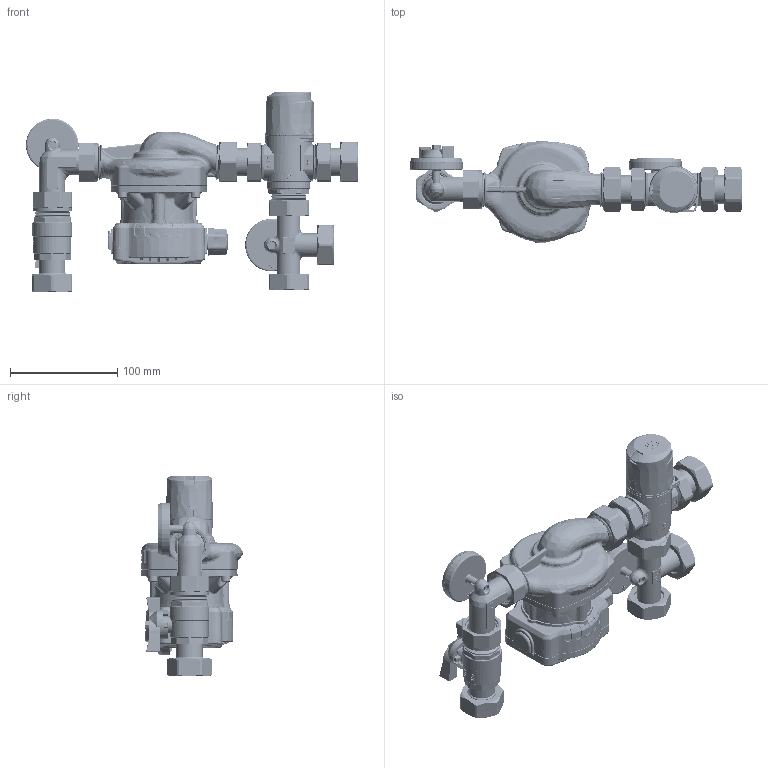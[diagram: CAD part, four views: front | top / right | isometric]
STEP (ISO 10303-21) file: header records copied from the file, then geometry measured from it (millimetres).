
FILE_DESCRIPTION (( 'STEP AP214' ), '1' );
FILE_NAME ('BTU509.STEP', '2022-09-21T11:47:35', ( '' ), ( '' ), 'SwSTEP 2.0', 'SolidWorks 2022', '' );
FILE_SCHEMA (( 'AUTOMOTIVE_DESIGN' ));
Length unit declared in the file: millimetre
Products named in the file (34): 67079; BTU509; Vite-4x9-52110005; Dado-553-S-1-Lavorato-31505553; Anello-Elastico-553-S-1-53105253_Per assemblaggio; MANOPOLA; 41181; 3522-Dado-1-Lavorato-31505032; Termometro Afriso_D.50_L.20-Rosso-Azzurro-54705879-880_term-rosso; AHP-100-15-7-130_LFP; Dado-3004-1-Lavorato-31505428; Sfera-300-34-Lavorata-33208005; 67081; 3404-Prolunga-1Fx1DF-Lavorata-L1605404; Anello-Elastico-553-S-1-53105253; Guarnizione-Piana-483-1-52605483; Angolo-1x1-Montato; Raccordo-3 Vie-Montato; Angolo-1x1-Lavorato; Asta-840-12-Unificata-30505300; Misclatrice-Termostatica-ATM561-C-Lavoro-50105251; Guarnizione-840-34-ptfe-52705005; 21780; Farfalla-Allumionio-R1_Nera; Corpo-1229-1-Lavorato-xxxxxxxx; 30525300-840-Asta-R1-EPDM PEROX-Preassemblata; 3404-Prolunga-1Fx1DF-Montata-C1605404; Valvola-1x1DF-Termometro; Termometro Afriso_D.50_L.20-Rosso-Azzurro-54705879-880_term-blu; Anello-Elastico-3522-53105522; Raccordo-3 Vie-Lavorato; Raccordo-855-1-iso228-Lavorato-31605384; O-ring-2018-EPDM 70 N01C; 67082_ATM361
Assembly tree (46 placements, depth 4):
  BTU509
    Misclatrice-Termostatica-ATM561-C-Lavoro-50105251
      41181
      67082_ATM361
      21780
      67079
      67081
      MANOPOLA
    3404-Prolunga-1Fx1DF-Montata-C1605404  x2
      3404-Prolunga-1Fx1DF-Lavorata-L1605404
      Dado-553-S-1-Lavorato-31505553
      Anello-Elastico-553-S-1-53105253
    Guarnizione-Piana-483-1-52605483  x6
    Angolo-1x1-Montato
      Angolo-1x1-Lavorato
      Anello-Elastico-3522-53105522  x2
      3522-Dado-1-Lavorato-31505032  x2
    Termometro Afriso_D.50_L.20-Rosso-Azzurro-54705879-880_term-rosso
    Valvola-1x1DF-Termometro
      Corpo-1229-1-Lavorato-xxxxxxxx
      30525300-840-Asta-R1-EPDM PEROX-Preassemblata
        Asta-840-12-Unificata-30505300
        O-ring-2018-EPDM 70 N01C  x2
      Sfera-300-34-Lavorata-33208005
      Guarnizione-840-34-ptfe-52705005  x2
      Raccordo-855-1-iso228-Lavorato-31605384
      Anello-Elastico-553-S-1-53105253_Per assemblaggio
      Dado-553-S-1-Lavorato-31505553
      Farfalla-Allumionio-R1_Nera
      Vite-4x9-52110005
    Raccordo-3 Vie-Montato
      Raccordo-3 Vie-Lavorato
      Dado-3004-1-Lavorato-31505428  x3
    Termometro Afriso_D.50_L.20-Rosso-Azzurro-54705879-880_term-blu
    AHP-100-15-7-130_LFP
Bounding box: 309.02 x 94.87 x 186.52 mm (x, y, z)
Volume: 842366.2 mm3; surface area: 273420.5 mm2
Topology: 52 solids, 58 shells, 8070 faces, 19706 edges, 11809 vertices
Faces by surface type: plane 2272, bspline 2147, cylinder 1839, cone 1401, torus 265, sphere 146
Entity records: 374361 total; most frequent: CARTESIAN_POINT 217670, ORIENTED_EDGE 36408, DIRECTION 25870, EDGE_CURVE 18204, VERTEX_POINT 11079, AXIS2_PLACEMENT_3D 9455, EDGE_LOOP 7933, ADVANCED_FACE 7532
